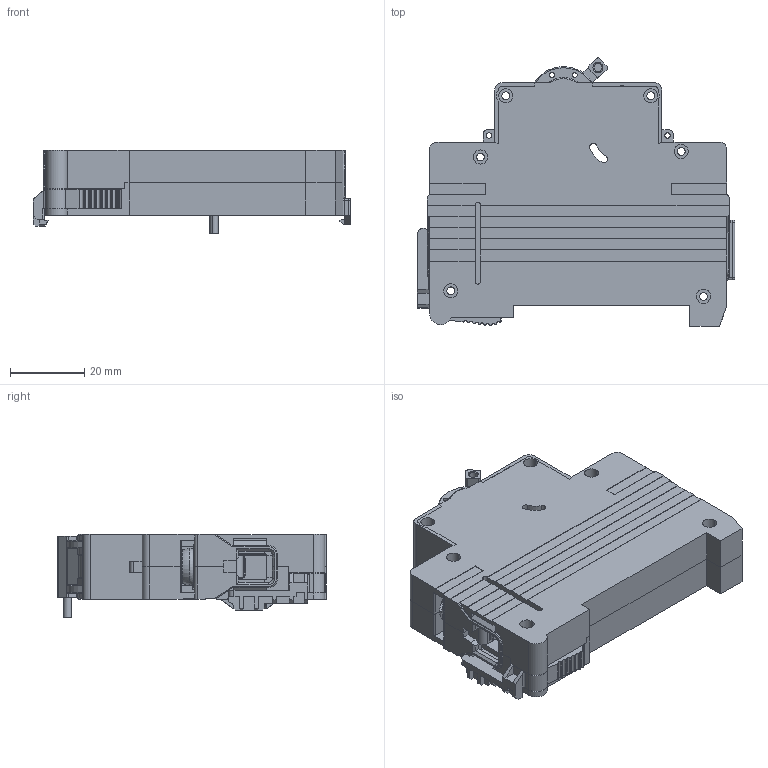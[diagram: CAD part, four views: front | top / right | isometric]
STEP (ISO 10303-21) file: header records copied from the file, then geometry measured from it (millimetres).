
FILE_DESCRIPTION (( 'STEP AP214' ), '1' );
FILE_NAME ('OptiDin 蟯63-迖.STEP', '2022-11-29T07:08:51', ( '' ), ( '' ), 'SwSTEP 2.0', 'SolidWorks 2018', '' );
FILE_SCHEMA (( 'AUTOMOTIVE_DESIGN' ));
Length unit declared in the file: millimetre
Products named in the file (9): Çàùåëêà ÃÆÈÊ.741358.036_¨§¬.1   08 ¨î­ï 2017; Ðó÷êà ÃÆÈÊ.753725.016; Áîêîâèíà ëåâàÿ ÃÆÈÊ.735224.118 (ïóñòàÿ)_Šà¥¯«¥­¨¥ 3 (EATON); Êîëîäêà ÃÆÈÊ.745418.015.step; OptiDin 蟯63-迖; 妈眚 闷仁.758151.057.step; ﾘ ﾃﾆﾈﾊ.715311.092; Áîêîâèíà ïðàâàÿ ÃÆÈÊ.735224.117(ïóñòîé)_1; ﾂ鏆鮏 ﾃﾆﾈﾊ.745315.008.step
Assembly tree (11 placements, depth 2):
  OptiDin 蟯63-迖
    Áîêîâèíà ïðàâàÿ ÃÆÈÊ.735224.117(ïóñòîé)_1
    Áîêîâèíà ëåâàÿ ÃÆÈÊ.735224.118 (ïóñòàÿ)_Šà¥¯«¥­¨¥ 3 (EATON)
    ﾂ鏆鮏 ﾃﾆﾈﾊ.745315.008.step  x2
    Êîëîäêà ÃÆÈÊ.745418.015.step  x2
    妈眚 闷仁.758151.057.step  x2
    Ðó÷êà ÃÆÈÊ.753725.016
    Çàùåëêà ÃÆÈÊ.741358.036_¨§¬.1   08 ¨î­ï 2017
    ﾘ ﾃﾆﾈﾊ.715311.092
Bounding box: 85.4 x 72.19 x 22.5 mm (x, y, z)
Volume: 29298.8 mm3; surface area: 39738.1 mm2
Topology: 11 solids, 11 shells, 1661 faces, 4530 edges, 2913 vertices
Faces by surface type: plane 1111, cylinder 490, cone 30, torus 22, sphere 4, bspline 4
Entity records: 44837 total; most frequent: CARTESIAN_POINT 8154, ORIENTED_EDGE 7696, DIRECTION 7509, EDGE_CURVE 3848, LINE 2829, VECTOR 2829, VERTEX_POINT 2487, AXIS2_PLACEMENT_3D 2340
